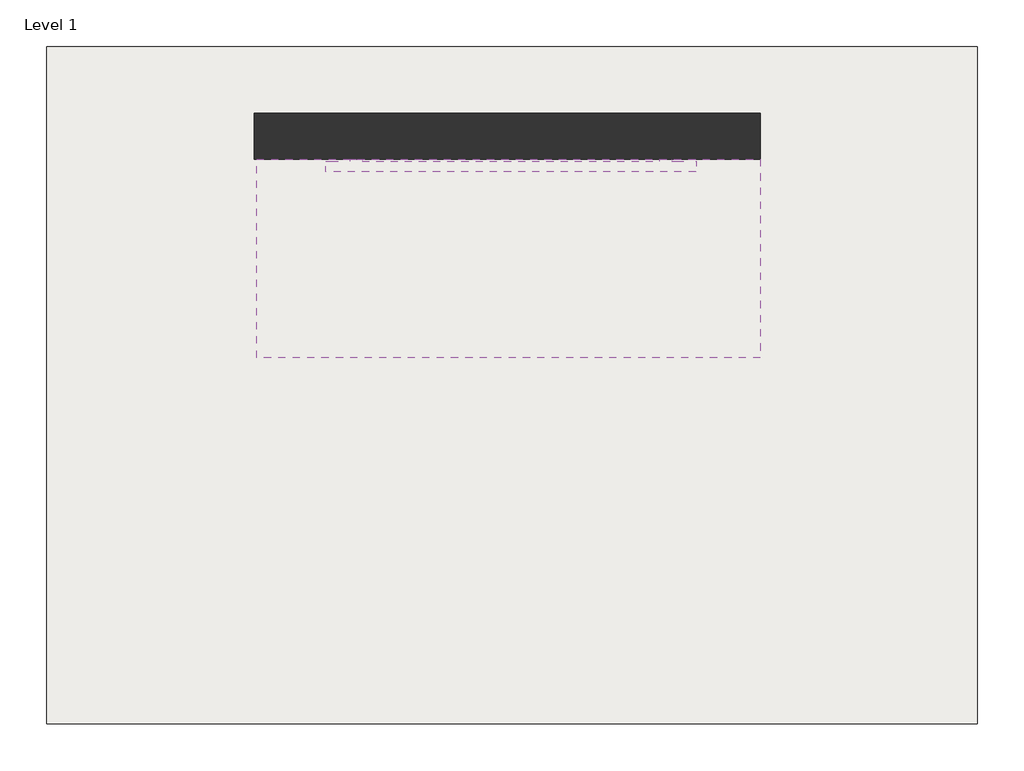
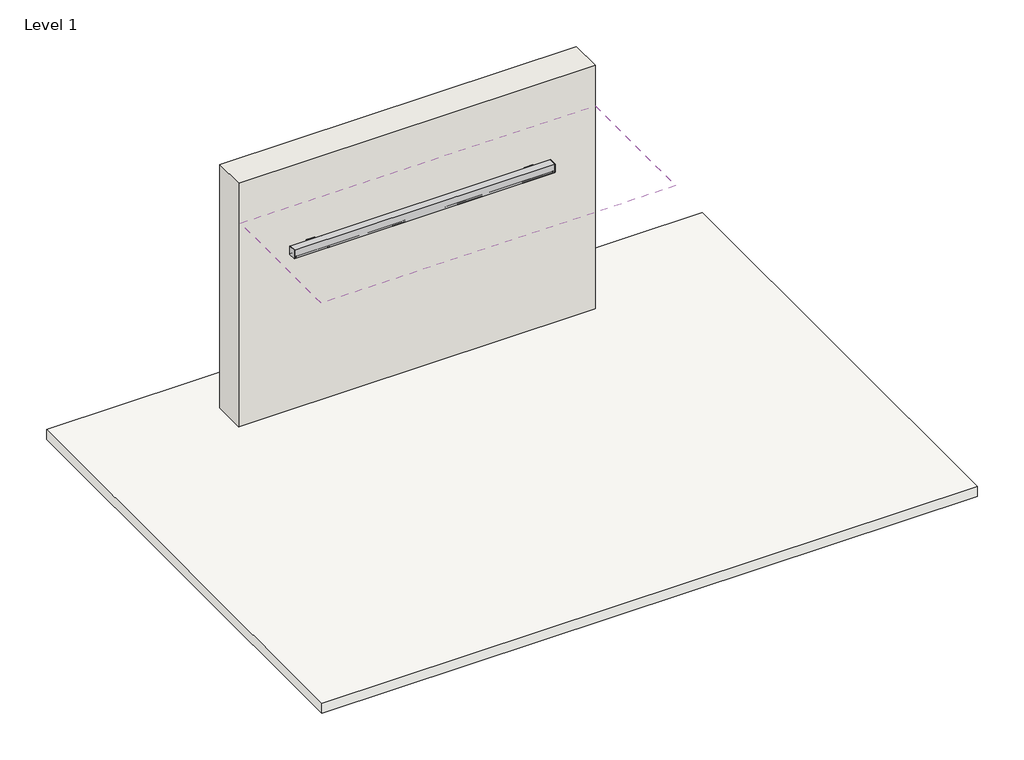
# One storey: 1 covering, 1 light fixture, 1 slab, 1 wall.
"""IFC4 building model written with IfcOpenShell, lengths in millimetres."""

from ifc_helpers import new_model, si_unit, frame, origin, origin_with_axes, place, context, project, spatial, polyline, outline, extrude, transform, mapped, element, save
from components import lighting_wall_axis_extend_4_54163fe5

model = new_model("IFC4")

# Units and contexts
model_context = context("Model", 3, world=origin())
ifc_project = project(units=[si_unit("LENGTHUNIT", "METRE", prefix="MILLI")], contexts=[model_context])

# Site, building, storey
site = spatial("IfcSite", under=ifc_project)
building = spatial("IfcBuilding", under=site)
storey = spatial("IfcBuildingStorey", under=building, Name="Level 1", Elevation=0.0)

# Covering
placement = place(None, origin())
element("IfcCovering", 1, ObjectType="Plain", at=placement, inside=storey, context=model_context, shape_type="SweptSolid", body=[
    extrude(outline(polyline([(-3780.5571266, 5992.4697047), (1248.6428734, 5992.4697047), (1248.6428734, 4011.2697047), (-3780.5571266, 4011.2697047), (-3780.5571266, 5992.4697047)])), frame((0.0, 0.0, 3048.0), z_axis=(0.0, 0.0, 1.0), x_axis=(1.0, 0.0, 0.0)), (0.0, 0.0, 1.0), 12.7),
])

# Light fixture
lighting_wall_axis_extend_4_shape = lighting_wall_axis_extend_4_54163fe5(model_context)
element("IfcLightFixture", 2, ObjectType="Lighting-Wall-Axis-Extend_4 : EX4WD-900-80-35-SO-4", at=placement, inside=storey, context=model_context, shape_type="MappedRepresentation", body=[
    mapped(lighting_wall_axis_extend_4_shape, transform((-1240.5571266, 5992.4697047, 2349.0), x_axis=(1.0, 0.0, 0.0), y_axis=(0.0, 0.0, 1.0), z_axis=(0.0, -1.0, 0.0))),
])

# Slab
element("IfcSlab", 3, ObjectType="Generic 150mm", at=placement, inside=storey, context=model_context, shape_type="SweptSolid", body=[
    extrude(outline(polyline([(3416.9635568, 7118.573374), (3416.9635568, 353.6697047), (-5879.4364432, 353.6697047), (-5879.4364432, 7118.573374), (3416.9635568, 7118.573374)])), frame((0.0, 0.0, -150.0), z_axis=(0.0, 0.0, 1.0), x_axis=(1.0, 0.0, 0.0)), (0.0, 0.0, 1.0), 150.0),
])

# Wall
element("IfcWall", 4, ObjectType="Exterior - Block on Mtl. Stud", at=placement, inside=storey, context=model_context, shape_type="SweptSolid", body=[
    extrude(outline(polyline([(1248.6428734, 5992.4697047), (-3805.9571266, 5992.4697047), (-3805.9571266, 6452.4697047), (1248.6428734, 6452.4697047), (1248.6428734, 5992.4697047)])), origin_with_axes(), (0.0, 0.0, 1.0), 3657.6),
])

save(model, "model.ifc")
